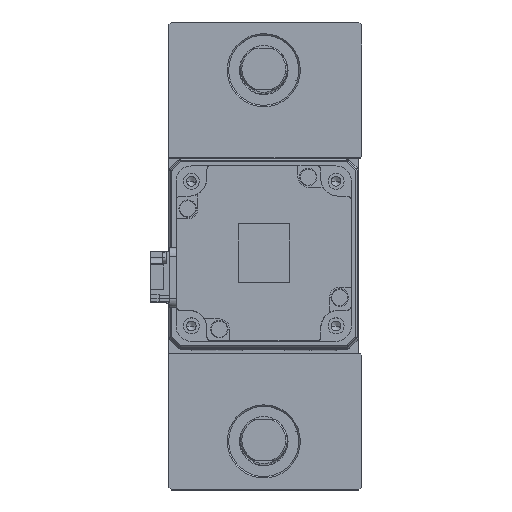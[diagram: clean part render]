
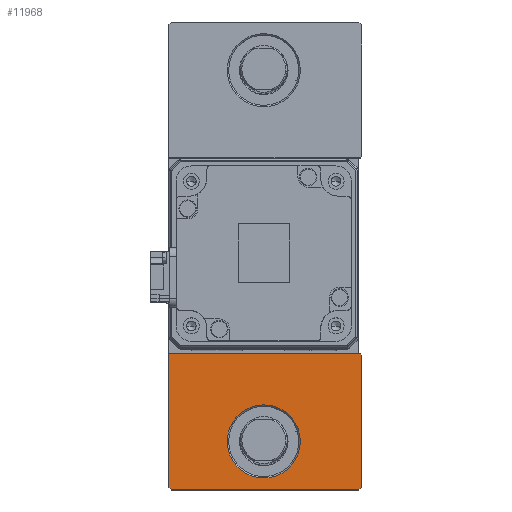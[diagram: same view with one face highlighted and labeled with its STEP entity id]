
A CAD part, top view. The second image highlights one B-rep face of the part: STEP entity #11968.
In plain terms, the highlighted planar face has unit normal (0, 0, 1).
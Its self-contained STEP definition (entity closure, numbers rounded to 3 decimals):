
#991 = CARTESIAN_POINT ( 'NONE',  ( 56.25, -56.25, 25. ) ) ;
#1135 = DIRECTION ( 'NONE',  ( 1., 0., 0. ) ) ;
#1913 = DIRECTION ( 'NONE',  ( 0., 0., -1. ) ) ;
#2178 = VERTEX_POINT ( 'NONE', #27838 ) ;
#2633 = CARTESIAN_POINT ( 'NONE',  ( -32.5, -33.5, 25. ) ) ;
#3226 = CARTESIAN_POINT ( 'NONE',  ( -31.5, -80., 25. ) ) ;
#3313 = AXIS2_PLACEMENT_3D ( 'NONE', #36500, #18943, #1135 ) ;
#3996 = FACE_OUTER_BOUND ( 'NONE', #6056, .T. ) ;
#5325 = EDGE_CURVE ( 'NONE', #11936, #33424, #15441, .T. ) ;
#5666 = EDGE_LOOP ( 'NONE', ( #9422, #36069 ) ) ;
#6056 = EDGE_LOOP ( 'NONE', ( #14340, #33336, #17237, #8170, #23802, #32343, #19791 ) ) ;
#6821 = CARTESIAN_POINT ( 'NONE',  ( -55.75, -55.75, 25. ) ) ;
#7659 = LINE ( 'NONE', #16013, #22390 ) ;
#7728 = DIRECTION ( 'NONE',  ( 1., 0., 0. ) ) ;
#7971 = EDGE_CURVE ( 'NONE', #2178, #8754, #11027, .T. ) ;
#8128 = CIRCLE ( 'NONE', #3313, 12.5 ) ;
#8170 = ORIENTED_EDGE ( 'NONE', *, *, #21795, .T. ) ;
#8754 = VERTEX_POINT ( 'NONE', #19342 ) ;
#8858 = VECTOR ( 'NONE', #37835, 1000. ) ;
#9158 = VECTOR ( 'NONE', #20061, 1000. ) ;
#9254 = AXIS2_PLACEMENT_3D ( 'NONE', #19704, #1913, #22663 ) ;
#9422 = ORIENTED_EDGE ( 'NONE', *, *, #5325, .T. ) ;
#9989 = EDGE_CURVE ( 'NONE', #29441, #2178, #29230, .T. ) ;
#11027 = LINE ( 'NONE', #37610, #9158 ) ;
#11936 = VERTEX_POINT ( 'NONE', #22276 ) ;
#11968 = ADVANCED_FACE ( 'NONE', ( #26629, #3996 ), #16506, .T. ) ;
#13049 = DIRECTION ( 'NONE',  ( 1., 0., 0. ) ) ;
#13879 = AXIS2_PLACEMENT_3D ( 'NONE', #28162, #25338, #7728 ) ;
#13901 = VECTOR ( 'NONE', #31048, 1000. ) ;
#14340 = ORIENTED_EDGE ( 'NONE', *, *, #32344, .T. ) ;
#15441 = CIRCLE ( 'NONE', #9254, 12.5 ) ;
#16013 = CARTESIAN_POINT ( 'NONE',  ( -32.5, -80., 25. ) ) ;
#16167 = EDGE_CURVE ( 'NONE', #36356, #16170, #18109, .T. ) ;
#16170 = VERTEX_POINT ( 'NONE', #18667 ) ;
#16430 = CARTESIAN_POINT ( 'NONE',  ( 32.5, -80., 25. ) ) ;
#16506 = PLANE ( 'NONE',  #13879 ) ;
#17237 = ORIENTED_EDGE ( 'NONE', *, *, #35549, .T. ) ;
#17343 = CARTESIAN_POINT ( 'NONE',  ( -0.25, -0.25, 25. ) ) ;
#18109 = LINE ( 'NONE', #991, #32777 ) ;
#18300 = EDGE_CURVE ( 'NONE', #33424, #11936, #8128, .T. ) ;
#18667 = CARTESIAN_POINT ( 'NONE',  ( 33.5, -79., 25. ) ) ;
#18943 = DIRECTION ( 'NONE',  ( 0., 0., -1. ) ) ;
#19192 = VECTOR ( 'NONE', #27400, 1000. ) ;
#19342 = CARTESIAN_POINT ( 'NONE',  ( -32.5, -79., 25. ) ) ;
#19704 = CARTESIAN_POINT ( 'NONE',  ( 0., -63.5, 25. ) ) ;
#19791 = ORIENTED_EDGE ( 'NONE', *, *, #32285, .T. ) ;
#20061 = DIRECTION ( 'NONE',  ( 0., -1., 0. ) ) ;
#21795 = EDGE_CURVE ( 'NONE', #22240, #29441, #37307, .T. ) ;
#22240 = VERTEX_POINT ( 'NONE', #23339 ) ;
#22276 = CARTESIAN_POINT ( 'NONE',  ( 12.5, -63.5, 25. ) ) ;
#22390 = VECTOR ( 'NONE', #13049, 1000. ) ;
#22663 = DIRECTION ( 'NONE',  ( 1., 0., 0. ) ) ;
#23339 = CARTESIAN_POINT ( 'NONE',  ( 33.5, -34., 25. ) ) ;
#23802 = ORIENTED_EDGE ( 'NONE', *, *, #9989, .T. ) ;
#24568 = DIRECTION ( 'NONE',  ( 0.707, 0.707, 0. ) ) ;
#25338 = DIRECTION ( 'NONE',  ( 0., 0., 1. ) ) ;
#26252 = CARTESIAN_POINT ( 'NONE',  ( -12.5, -63.5, 25. ) ) ;
#26313 = DIRECTION ( 'NONE',  ( -1., 0., 0. ) ) ;
#26629 = FACE_BOUND ( 'NONE', #5666, .T. ) ;
#27400 = DIRECTION ( 'NONE',  ( 0.707, -0.707, 0. ) ) ;
#27838 = CARTESIAN_POINT ( 'NONE',  ( -32.5, -33.5, 25. ) ) ;
#28137 = CARTESIAN_POINT ( 'NONE',  ( 33.5, -33.5, 25. ) ) ;
#28162 = CARTESIAN_POINT ( 'NONE',  ( 0., 0., 25. ) ) ;
#29230 = LINE ( 'NONE', #2633, #37033 ) ;
#29441 = VERTEX_POINT ( 'NONE', #34030 ) ;
#31048 = DIRECTION ( 'NONE',  ( 0., 1., 0. ) ) ;
#32285 = EDGE_CURVE ( 'NONE', #8754, #37227, #33875, .T. ) ;
#32343 = ORIENTED_EDGE ( 'NONE', *, *, #7971, .T. ) ;
#32344 = EDGE_CURVE ( 'NONE', #37227, #36356, #7659, .T. ) ;
#32777 = VECTOR ( 'NONE', #24568, 1000. ) ;
#33336 = ORIENTED_EDGE ( 'NONE', *, *, #16167, .T. ) ;
#33424 = VERTEX_POINT ( 'NONE', #26252 ) ;
#33875 = LINE ( 'NONE', #6821, #19192 ) ;
#34030 = CARTESIAN_POINT ( 'NONE',  ( 33., -33.5, 25. ) ) ;
#35549 = EDGE_CURVE ( 'NONE', #16170, #22240, #37280, .T. ) ;
#36069 = ORIENTED_EDGE ( 'NONE', *, *, #18300, .T. ) ;
#36356 = VERTEX_POINT ( 'NONE', #16430 ) ;
#36500 = CARTESIAN_POINT ( 'NONE',  ( 0., -63.5, 25. ) ) ;
#37033 = VECTOR ( 'NONE', #26313, 1000. ) ;
#37227 = VERTEX_POINT ( 'NONE', #3226 ) ;
#37280 = LINE ( 'NONE', #28137, #13901 ) ;
#37307 = LINE ( 'NONE', #17343, #8858 ) ;
#37610 = CARTESIAN_POINT ( 'NONE',  ( -32.5, -33.5, 25. ) ) ;
#37835 = DIRECTION ( 'NONE',  ( -0.707, 0.707, 0. ) ) ;
